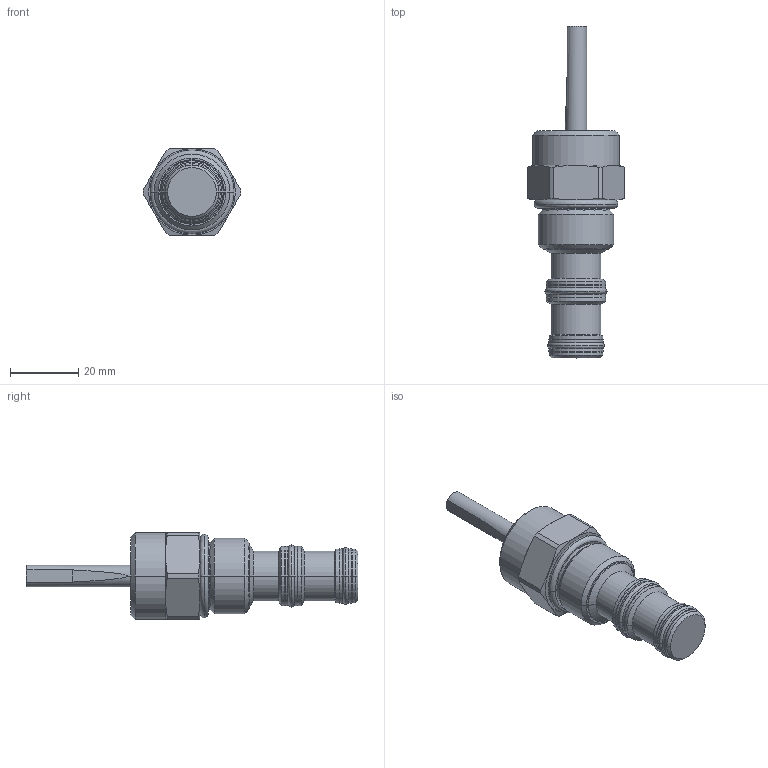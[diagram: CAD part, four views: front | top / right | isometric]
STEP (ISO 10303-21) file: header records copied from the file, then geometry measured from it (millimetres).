
FILE_DESCRIPTION((''),'2;1');
FILE_NAME('5313100_SW0002','2009-02-04T',('jcs'),(''),'PRO/ENGINEER BY PARAMETRIC TECHNOLOGY CORPORATION, 2008010','PRO/ENGINEER BY PARAMETRIC TECHNOLOGY CORPORATION, 2008010','');
FILE_SCHEMA(('CONFIG_CONTROL_DESIGN'));
Length unit declared in the file: inch
Products named in the file (1): 5313100_SW0002
Bounding box: 28.57 x 97.33 x 25.4 mm (x, y, z)
Volume: 23072.3 mm3; surface area: 8154.8 mm2
Topology: 4 solids, 4 shells, 165 faces, 351 edges, 203 vertices
Faces by surface type: cylinder 48, plane 34, torus 30, cone 29, revolution 24
Entity records: 5337 total; most frequent: CARTESIAN_POINT 1688, DIRECTION 810, ORIENTED_EDGE 698, EDGE_CURVE 349, AXIS2_PLACEMENT_3D 342, VERTEX_POINT 203, CIRCLE 201, EDGE_LOOP 182
